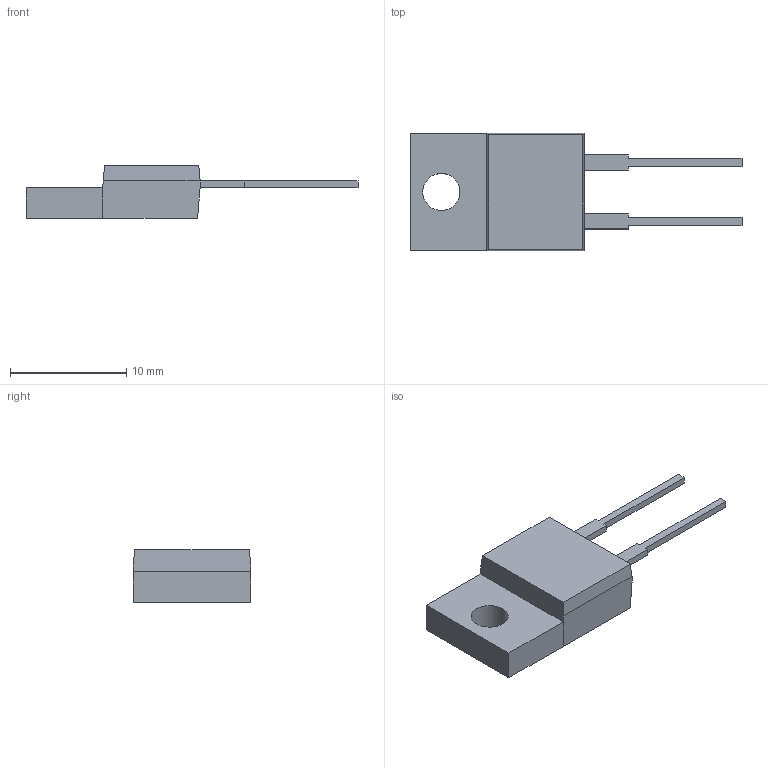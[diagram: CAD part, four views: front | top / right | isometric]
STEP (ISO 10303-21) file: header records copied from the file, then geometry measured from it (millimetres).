
FILE_DESCRIPTION(/* description */ (''),/* implementation_level */ '2;1');
FILE_NAME(/* name */ 'P221-ITO220AC.stp',/* time_stamp */ '2020-07-07T13:11:44+02:00',/* author */ (''),/* organization */ (''),/* preprocessor_version */ 'ST-DEVELOPER v14',/* originating_system */ 'SIEMENS PLM Software NX 8.0',/* authorisation */ '');
FILE_SCHEMA (('AUTOMOTIVE_DESIGN { 1 0 10303 214 3 1 1 1 }'));
Length unit declared in the file: millimetre
Products named in the file (1): 221003-05391_body
Bounding box: 28.6 x 10.1 x 4.5 mm (x, y, z)
Volume: 541.8 mm3; surface area: 641.3 mm2
Topology: 4 solids, 4 shells, 38 faces, 88 edges, 58 vertices
Faces by surface type: plane 37, cylinder 1
Full cylindrical faces by diameter (mm): 3.2 x1
Entity records: 1187 total; most frequent: CARTESIAN_POINT 189, ORIENTED_EDGE 174, DIRECTION 167, EDGE_CURVE 87, LINE 85, VECTOR 85, VERTEX_POINT 58, EDGE_LOOP 41
